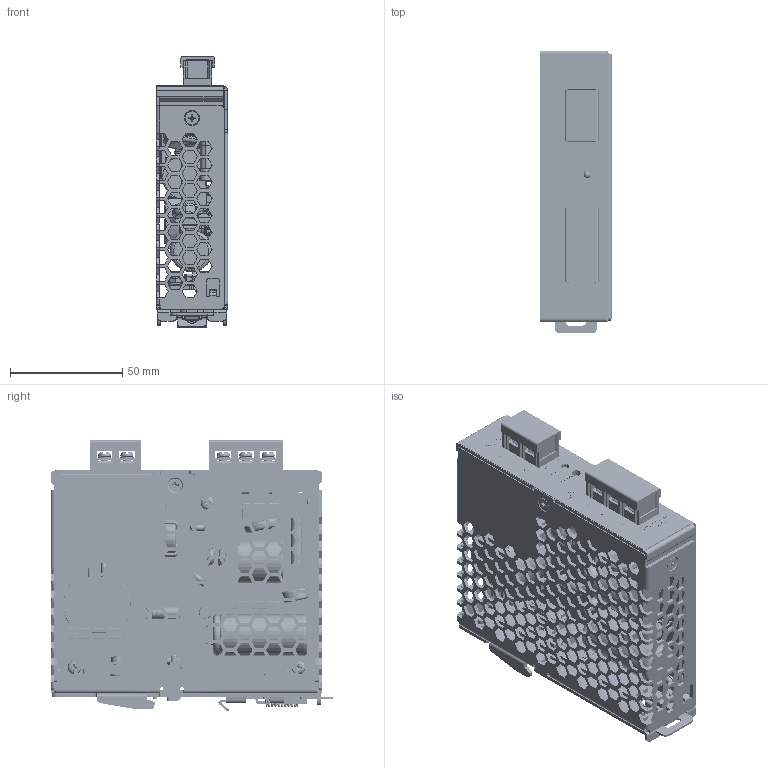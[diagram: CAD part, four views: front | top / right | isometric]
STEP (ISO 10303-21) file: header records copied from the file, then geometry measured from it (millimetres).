
FILE_DESCRIPTION((''),'2;1');
FILE_NAME('DRR012V060W1AA_ASM','2012-04-20T',('Manop.Pr'),(''),'PRO/ENGINEER BY PARAMETRIC TECHNOLOGY CORPORATION, 2010180','PRO/ENGINEER BY PARAMETRIC TECHNOLOGY CORPORATION, 2010180','');
FILE_SCHEMA(('CONFIG_CONTROL_DESIGN','SHAPE_APPEARANCE_LAYERS_GROUPS'));
Products named in the file (73): 331067910101; 331067910101_A_STUD6-32; 331067910101_ASM; 331067890101; 326304880101; 324441580000; 3268190300; 3202315200; 2958035803_PWB; 2958035803_PWB_LAYOUT; 3073044246_A_BODY; 3073044246_A_COVER; 3073044246_A_TERMINAL; 3073044246_A_PIN; 3073044246_A_SCREW; 3073044246_ASM; 3073044346_A_BODY; 3073044346_A_COVER; 3073044346_A_TERMINAL; 3073044346_A_PIN; 3073044346_A_SCREW; 3073044346_ASM; 3346263200; 3346263200_A_PIN1; 3346263200_A_PIN2; EE_Q1; 3240736900-INSULATOR; 3105039300; 3429505301; 3227002000_TUBE_CLIP; ASSY_CLIP_ASM; ASSY_HS1_ASM; 3346476600; EE_SD350; 3100001200; 3110110900; ASSY_HS2_ASM; EE_LED_HOLDER_3122016400; EE_LED350_2301151506; ASSY_LED350_ASM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
Assembly tree (101 placements, depth 5):
  DRR012V060W1AA_ASM
    331067910101_ASM
      331067910101
      331067910101_A_STUD6-32  x5
    331067890101
    326304880101
    324441580000
    3268190300
    3202315200
    ASSY_PWB_ASM
      2958035803_PWB
      2958035803_PWB_LAYOUT
      3073044246_ASM
        3073044246_A_BODY
        3073044246_A_COVER
        3073044246_A_TERMINAL  x2
        3073044246_A_PIN  x2
        3073044246_A_SCREW  x2
      3073044346_ASM
        3073044346_A_BODY
        3073044346_A_COVER
        3073044346_A_TERMINAL  x3
        3073044346_A_PIN  x2
        3073044346_A_SCREW  x3
      ASSY_HS1_ASM
        3346263200
        3346263200_A_PIN1  x2
        3346263200_A_PIN2
        EE_Q1
        3240736900-INSULATOR
        3105039300
        ASSY_CLIP_ASM
          3429505301
          3227002000_TUBE_CLIP
      ASSY_HS2_ASM
        3346476600
        EE_SD350  x2
        3100001200  x2
        3110110900  x2
      ASSY_LED350_ASM
        EE_LED_HOLDER_3122016400
        EE_LED350_2301151506
      ASSY_NTC601_ASM
        3350390100-TERMINAL_ALUM
        EE_NTC601_0911042116
      EE_T1_2870163200_ASM
        EE_T1_2870163200_BOBIN
        EE_T1_2870163200_CORE  x2
        EE_T1_2870163200_WIRE
      EE_C1_145401810040
      EE_CX1_1604313224
      EE_BD1_200111610031
      EE_Z1_0923013506
      EE_F1_0805340602
      EE_FL1_2875064100
      EE_NTC1_0910300316
      EE_VR550_0604101305
      EE_C350_140122220407
      EE_C351_140122220407
      EE_C352_140122220407
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Bounding box: 32.1 x 126 x 121.14 mm (x, y, z)
Volume: 142640.7 mm3; surface area: 198397.2 mm2
Topology: 92 solids, 95 shells, 7432 faces, 18844 edges, 11716 vertices
Faces by surface type: plane 5072, cylinder 1087, extrusion 471, bspline 336, cone 208, torus 200, sphere 58
Entity records: 246686 total; most frequent: CARTESIAN_POINT 49446, ORIENTED_EDGE 31636, DIRECTION 28915, EDGE_CURVE 15818, PRESENTATION_STYLE_ASSIGNMENT 14288, STYLED_ITEM 13981, CURVE_STYLE 13817, VECTOR 12689
